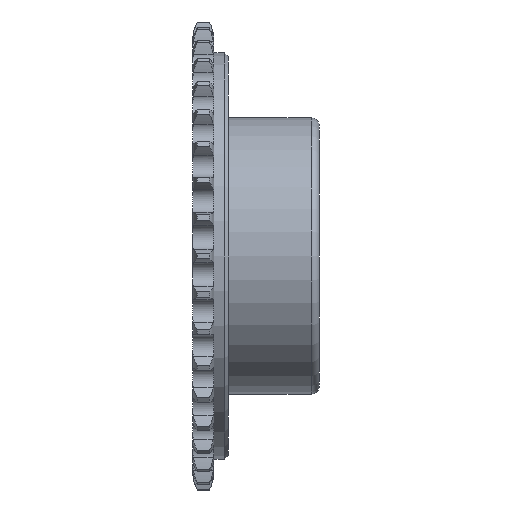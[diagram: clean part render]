
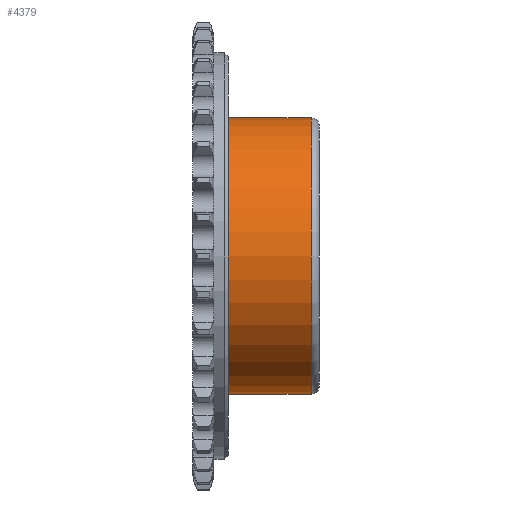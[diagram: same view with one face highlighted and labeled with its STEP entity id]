
A CAD part, front view. The second image highlights one B-rep face of the part: STEP entity #4379.
In plain terms, the highlighted cylindrical face has radius 35 mm (diameter 70 mm), a full revolution.
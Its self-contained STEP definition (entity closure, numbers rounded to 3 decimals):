
#24=FACE_BOUND('',#825,.T.);
#340=CIRCLE('',#4850,35.);
#341=CIRCLE('',#4852,35.);
#579=FACE_OUTER_BOUND('',#824,.T.);
#824=EDGE_LOOP('',(#3892));
#825=EDGE_LOOP('',(#3893));
#1906=VERTEX_POINT('',#8737);
#1907=VERTEX_POINT('',#8740);
#2597=EDGE_CURVE('',#1906,#1906,#340,.T.);
#2598=EDGE_CURVE('',#1907,#1907,#341,.T.);
#3892=ORIENTED_EDGE('',*,*,#2597,.T.);
#3893=ORIENTED_EDGE('',*,*,#2598,.F.);
#4145=CYLINDRICAL_SURFACE('',#4851,35.);
#4379=ADVANCED_FACE('',(#579,#24),#4145,.T.);
#4850=AXIS2_PLACEMENT_3D('',#8738,#5942,#5943);
#4851=AXIS2_PLACEMENT_3D('',#8739,#5944,#5945);
#4852=AXIS2_PLACEMENT_3D('',#8741,#5946,#5947);
#5942=DIRECTION('center_axis',(-1.,0.,0.));
#5943=DIRECTION('ref_axis',(0.,0.,1.));
#5944=DIRECTION('center_axis',(-1.,0.,0.));
#5945=DIRECTION('ref_axis',(0.,-1.,0.));
#5946=DIRECTION('center_axis',(-1.,0.,0.));
#5947=DIRECTION('ref_axis',(0.,0.,1.));
#8737=CARTESIAN_POINT('',(17.579,30.721,0.));
#8738=CARTESIAN_POINT('Origin',(17.579,65.721,0.));
#8739=CARTESIAN_POINT('Origin',(7.079,65.721,0.));
#8740=CARTESIAN_POINT('',(-3.421,30.721,0.));
#8741=CARTESIAN_POINT('Origin',(-3.421,65.721,0.));
